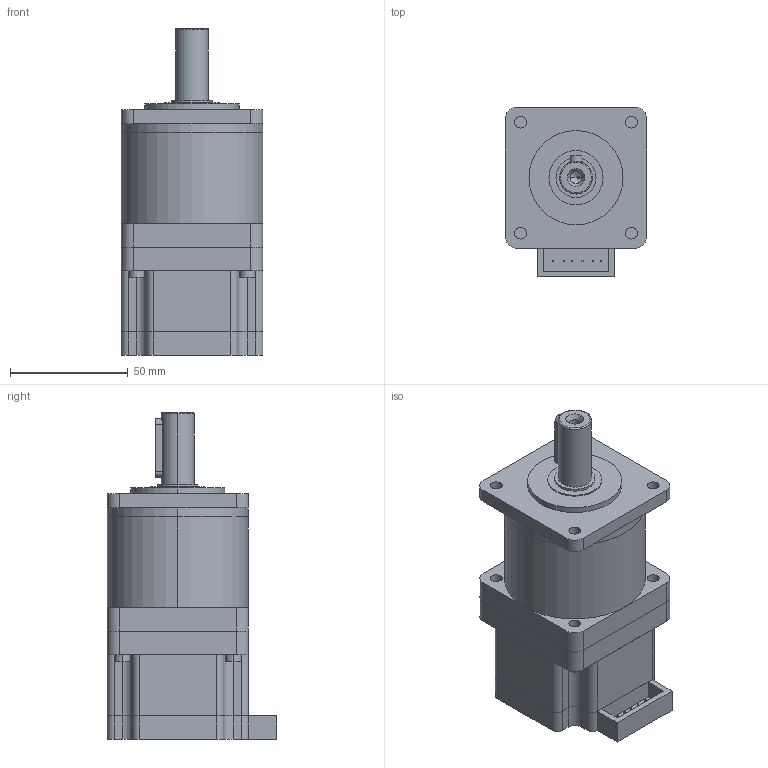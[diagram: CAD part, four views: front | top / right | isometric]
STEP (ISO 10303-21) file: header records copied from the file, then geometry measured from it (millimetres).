
FILE_DESCRIPTION (( 'STEP AP203' ), '1' );
FILE_NAME ('60PG050-D20-0446.STEP', '2019-09-21T07:48:41', ( 'China' ), ( 'Home' ), 'SwSTEP 2.0', 'SolidWorks 2016', '' );
FILE_SCHEMA (( 'CONFIG_CONTROL_DESIGN' ));
Length unit declared in the file: millimetre
Products named in the file (1): 60PG050-D20-0446
Bounding box: 60 x 72 x 138.8 mm (x, y, z)
Volume: 335466.3 mm3; surface area: 67250.1 mm2
Topology: 11 solids, 11 shells, 218 faces, 540 edges, 355 vertices
Faces by surface type: plane 132, cylinder 80, cone 4, bspline 2
Entity records: 6641 total; most frequent: CARTESIAN_POINT 1211, DIRECTION 1130, ORIENTED_EDGE 1076, EDGE_CURVE 538, AXIS2_PLACEMENT_3D 380, VECTOR 370, LINE 370, VERTEX_POINT 355
